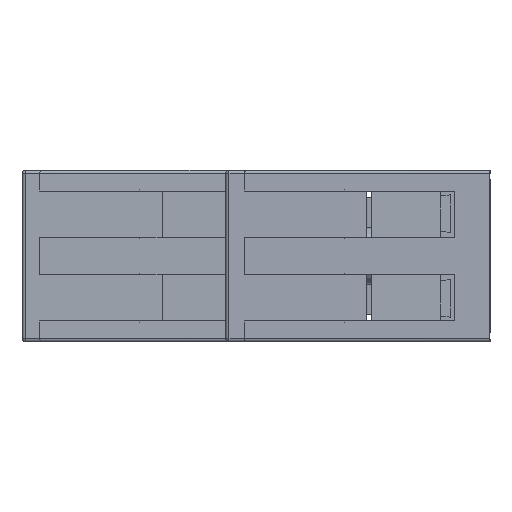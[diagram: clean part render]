
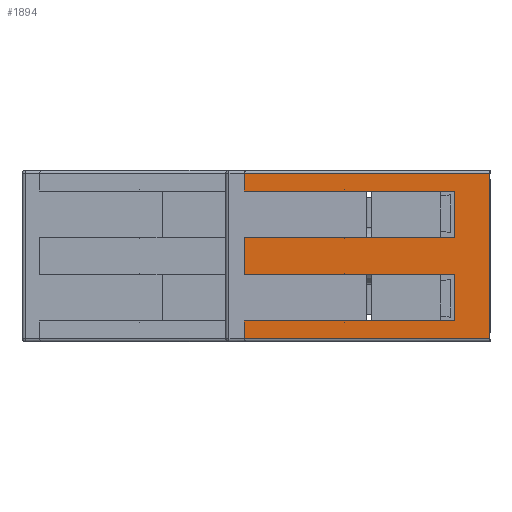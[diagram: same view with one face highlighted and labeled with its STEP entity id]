
A CAD part, left-side view. The second image highlights one B-rep face of the part: STEP entity #1894.
In plain terms, the highlighted planar face has unit normal (-1, 0.016, 0).
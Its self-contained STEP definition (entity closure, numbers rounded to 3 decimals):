
#1072=PLANE('',#17493);
#1894=ADVANCED_FACE('',(#2830),#1072,.F.);
#2830=FACE_OUTER_BOUND('',#3815,.T.);
#3815=EDGE_LOOP('',(#11506,#11507,#11508,#11509,#11510,#11511,#11512,#11513,
#11514,#11515,#11516,#11517,#11518,#11519,#11520,#11521));
#5410=LINE('',#36066,#7291);
#5413=LINE('',#36072,#7294);
#5416=LINE('',#36078,#7297);
#5417=LINE('',#36082,#7298);
#5423=LINE('',#36095,#7304);
#5425=LINE('',#36100,#7306);
#5429=LINE('',#36107,#7310);
#5436=LINE('',#36120,#7317);
#5441=LINE('',#36130,#7322);
#5442=LINE('',#36132,#7323);
#5446=LINE('',#36141,#7327);
#5450=LINE('',#36148,#7331);
#5461=LINE('',#36168,#7342);
#5466=LINE('',#36178,#7347);
#5698=LINE('',#36688,#7579);
#5699=LINE('',#36690,#7580);
#7291=VECTOR('',#20580,1.);
#7294=VECTOR('',#20585,1.);
#7297=VECTOR('',#20590,1.);
#7298=VECTOR('',#20595,1.);
#7304=VECTOR('',#20605,1.);
#7306=VECTOR('',#20609,1.);
#7310=VECTOR('',#20617,1.);
#7317=VECTOR('',#20628,1.);
#7322=VECTOR('',#20637,1.);
#7323=VECTOR('',#20640,1.);
#7327=VECTOR('',#20646,1.);
#7331=VECTOR('',#20654,1.);
#7342=VECTOR('',#20669,1.);
#7347=VECTOR('',#20678,1.);
#7579=VECTOR('',#21188,1.);
#7580=VECTOR('',#21189,1.);
#11506=ORIENTED_EDGE('',*,*,#15997,.F.);
#11507=ORIENTED_EDGE('',*,*,#15694,.F.);
#11508=ORIENTED_EDGE('',*,*,#15692,.F.);
#11509=ORIENTED_EDGE('',*,*,#15701,.F.);
#11510=ORIENTED_EDGE('',*,*,#15703,.F.);
#11511=ORIENTED_EDGE('',*,*,#15707,.F.);
#11512=ORIENTED_EDGE('',*,*,#15689,.F.);
#11513=ORIENTED_EDGE('',*,*,#15714,.F.);
#11514=ORIENTED_EDGE('',*,*,#15719,.F.);
#11515=ORIENTED_EDGE('',*,*,#15720,.F.);
#11516=ORIENTED_EDGE('',*,*,#15724,.F.);
#11517=ORIENTED_EDGE('',*,*,#15728,.F.);
#11518=ORIENTED_EDGE('',*,*,#15686,.F.);
#11519=ORIENTED_EDGE('',*,*,#15739,.F.);
#11520=ORIENTED_EDGE('',*,*,#15744,.F.);
#11521=ORIENTED_EDGE('',*,*,#15998,.T.);
#13527=VERTEX_POINT('',#35484);
#13694=VERTEX_POINT('',#36067);
#13695=VERTEX_POINT('',#36068);
#13696=VERTEX_POINT('',#36073);
#13697=VERTEX_POINT('',#36074);
#13698=VERTEX_POINT('',#36079);
#13699=VERTEX_POINT('',#36083);
#13703=VERTEX_POINT('',#36094);
#13705=VERTEX_POINT('',#36099);
#13710=VERTEX_POINT('',#36119);
#13713=VERTEX_POINT('',#36129);
#13714=VERTEX_POINT('',#36133);
#13717=VERTEX_POINT('',#36140);
#13725=VERTEX_POINT('',#36167);
#13728=VERTEX_POINT('',#36177);
#13868=VERTEX_POINT('',#36689);
#15686=EDGE_CURVE('',#13694,#13695,#5410,.T.);
#15689=EDGE_CURVE('',#13696,#13697,#5413,.T.);
#15692=EDGE_CURVE('',#13527,#13698,#5416,.T.);
#15694=EDGE_CURVE('',#13698,#13699,#5417,.T.);
#15701=EDGE_CURVE('',#13703,#13527,#5423,.T.);
#15703=EDGE_CURVE('',#13705,#13703,#5425,.T.);
#15707=EDGE_CURVE('',#13697,#13705,#5429,.T.);
#15714=EDGE_CURVE('',#13710,#13696,#5436,.T.);
#15719=EDGE_CURVE('',#13713,#13710,#5441,.T.);
#15720=EDGE_CURVE('',#13714,#13713,#5442,.T.);
#15724=EDGE_CURVE('',#13717,#13714,#5446,.T.);
#15728=EDGE_CURVE('',#13695,#13717,#5450,.T.);
#15739=EDGE_CURVE('',#13725,#13694,#5461,.T.);
#15744=EDGE_CURVE('',#13728,#13725,#5466,.T.);
#15997=EDGE_CURVE('',#13699,#13868,#5698,.T.);
#15998=EDGE_CURVE('',#13728,#13868,#5699,.T.);
#17493=AXIS2_PLACEMENT_3D('',#36691,#21190,#21191);
#20580=DIRECTION('',(0.,0.,1.));
#20585=DIRECTION('',(0.,0.,1.));
#20590=DIRECTION('',(-0.016,-1.,0.));
#20595=DIRECTION('',(0.,0.,-1.));
#20605=DIRECTION('',(0.,0.,1.));
#20609=DIRECTION('',(0.016,1.,0.));
#20617=DIRECTION('',(0.016,1.,0.));
#20628=DIRECTION('',(-0.016,-1.,0.));
#20637=DIRECTION('',(-0.016,-1.,0.));
#20640=DIRECTION('',(0.,0.,1.));
#20646=DIRECTION('',(0.016,1.,0.));
#20654=DIRECTION('',(0.016,1.,0.));
#20669=DIRECTION('',(-0.016,-1.,0.));
#20678=DIRECTION('',(-0.016,-1.,0.));
#21188=DIRECTION('',(0.016,1.,0.));
#21189=DIRECTION('',(0.,0.,-1.));
#21190=DIRECTION('',(1.,-0.016,0.));
#21191=DIRECTION('',(-0.016,-1.,0.));
#35484=CARTESIAN_POINT('',(-37.4,22.3,7.5));
#36066=CARTESIAN_POINT('',(-37.7,3.2,-3.8));
#36067=CARTESIAN_POINT('',(-37.7,3.2,-5.9));
#36068=CARTESIAN_POINT('',(-37.7,3.2,-1.7));
#36072=CARTESIAN_POINT('',(-37.7,3.2,3.8));
#36073=CARTESIAN_POINT('',(-37.7,3.2,1.7));
#36074=CARTESIAN_POINT('',(-37.7,3.2,5.9));
#36078=CARTESIAN_POINT('',(-37.575,11.15,7.5));
#36079=CARTESIAN_POINT('',(-37.75,0.,7.5));
#36082=CARTESIAN_POINT('',(-37.75,0.,6.7));
#36083=CARTESIAN_POINT('',(-37.75,0.,-7.5));
#36094=CARTESIAN_POINT('',(-37.4,22.3,5.9));
#36095=CARTESIAN_POINT('',(-37.4,22.3,6.7));
#36099=CARTESIAN_POINT('',(-37.543,13.2,5.9));
#36100=CARTESIAN_POINT('',(-37.471,17.75,5.9));
#36107=CARTESIAN_POINT('',(-37.621,8.2,5.9));
#36119=CARTESIAN_POINT('',(-37.543,13.2,1.7));
#36120=CARTESIAN_POINT('',(-37.621,8.2,1.7));
#36129=CARTESIAN_POINT('',(-37.4,22.3,1.7));
#36130=CARTESIAN_POINT('',(-37.471,17.75,1.7));
#36132=CARTESIAN_POINT('',(-37.4,22.3,0.));
#36133=CARTESIAN_POINT('',(-37.4,22.3,-1.7));
#36140=CARTESIAN_POINT('',(-37.543,13.2,-1.7));
#36141=CARTESIAN_POINT('',(-37.471,17.75,-1.7));
#36148=CARTESIAN_POINT('',(-37.621,8.2,-1.7));
#36167=CARTESIAN_POINT('',(-37.543,13.2,-5.9));
#36168=CARTESIAN_POINT('',(-37.621,8.2,-5.9));
#36177=CARTESIAN_POINT('',(-37.4,22.3,-5.9));
#36178=CARTESIAN_POINT('',(-37.471,17.75,-5.9));
#36688=CARTESIAN_POINT('',(-37.575,11.15,-7.5));
#36689=CARTESIAN_POINT('',(-37.4,22.3,-7.5));
#36690=CARTESIAN_POINT('',(-37.4,22.3,-6.7));
#36691=CARTESIAN_POINT('',(-37.575,11.15,0.));
